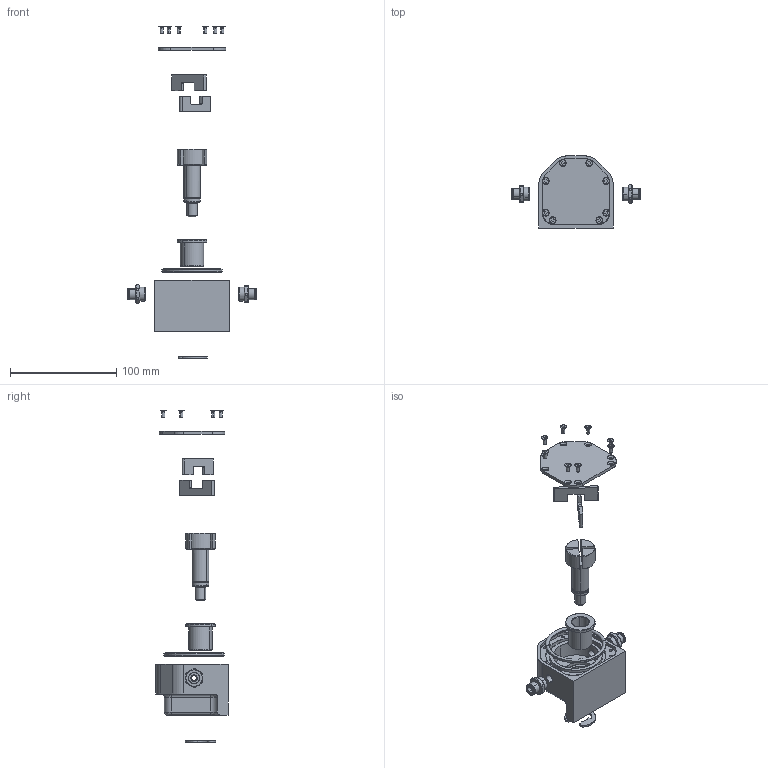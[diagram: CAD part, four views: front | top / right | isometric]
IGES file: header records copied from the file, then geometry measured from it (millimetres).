
Start section: SolidWorks IGES FILE using analytic representation for surfaces
Global section: file name: C:\Documents and Settings\Blanes Alain\Bureau\Mes documents Alain\BEP MPMI   2002-2003\Sujet 0\Pompe à palette\Pompe à palette .IGS; native system: SolidWorks 2001Plus by SolidWorks Corporation; preprocessor: Version 5.3; author: alain; date: 030828.150645; units: millimetre
Bounding box: 122.17 x 68 x 313.1 mm (x, y, z)
Surface area: 53589.7 mm2 (no closed solid volume)
Topology: 0 solids, 0 shells, 501 faces, 7044 edges, 7028 vertices
Faces by surface type: revolution 294, bspline 207
